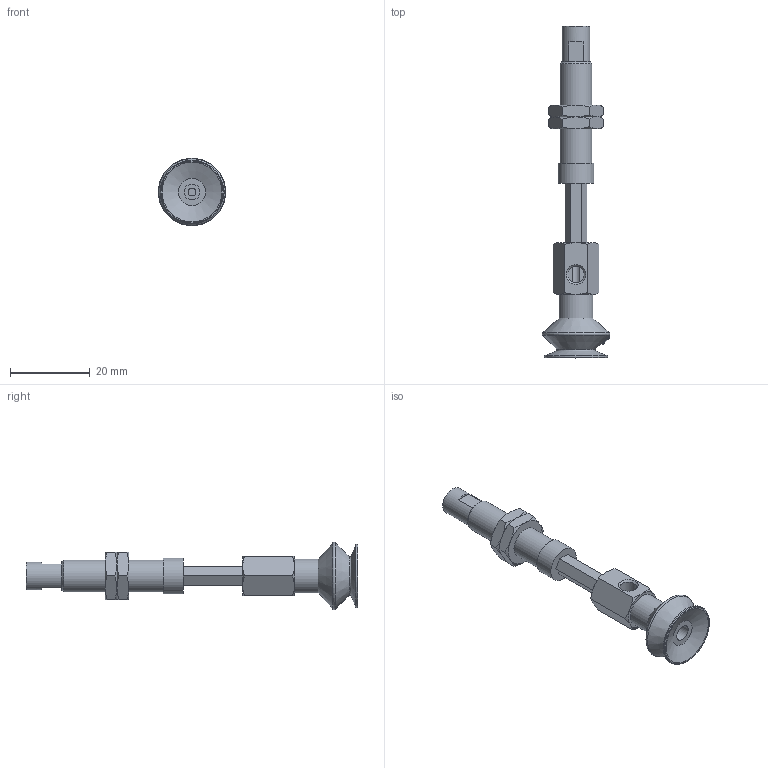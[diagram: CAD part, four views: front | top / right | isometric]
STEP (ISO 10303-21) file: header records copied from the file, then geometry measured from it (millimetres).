
FILE_DESCRIPTION(('STEP AP203'),'1');
FILE_NAME('.stp','2025-04-02T01:37:30',(' '),(' '),'Spatial InterOp 3D',' ',' ');
FILE_SCHEMA(('CONFIG_CONTROL_DESIGN'));
Length unit declared in the file: millimetre
Products named in the file (8): BNABPBYH-15A-15-※; CONNECTOR-15A-15-PB; Nut-15A-S-PB; NAPBTH-15A-15-FBODY; NAPBTH-15A-15-MBODY; BPBG-15A-※; __27; BPBG-15A
Assembly tree (8 placements, depth 3):
  BNABPBYH-15A-15-※
    CONNECTOR-15A-15-PB
    Nut-15A-S-PB  x2
    NAPBTH-15A-15-FBODY
    NAPBTH-15A-15-MBODY
    BPBG-15A-※
      __27
      BPBG-15A
Bounding box: 17 x 83.5 x 17 mm (x, y, z)
Volume: 5028.9 mm3; surface area: 5604.7 mm2
Topology: 7 solids, 7 shells, 154 faces, 338 edges, 208 vertices
Faces by surface type: plane 64, cone 55, cylinder 16, torus 11, bspline 8
Full cylindrical faces by diameter (mm): 2 x1, 4 x3, 4.134 x2, 5 x1, 6 x2, 7 x1, 7.188 x2, 8 x1, 8.5 x1, 9 x1, 16 x1
Entity records: 5061 total; most frequent: CARTESIAN_POINT 2077, DIRECTION 519, ORIENTED_EDGE 478, EDGE_CURVE 239, AXIS2_PLACEMENT_3D 218, EDGE_LOOP 189, VERTEX_POINT 168, FACE_OUTER_BOUND 157
